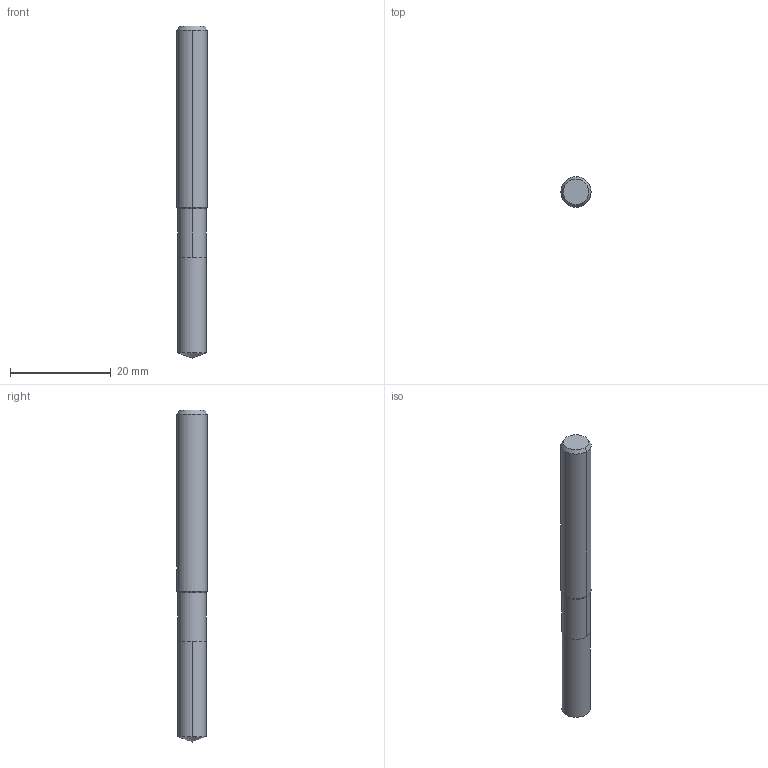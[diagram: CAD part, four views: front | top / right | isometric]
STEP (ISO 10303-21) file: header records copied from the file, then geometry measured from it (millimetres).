
FILE_DESCRIPTION(('no description'),'unknown implementation level');
FILE_NAME('solidVJX_OQ8OmvYQDqupamROsFD6TME_1.STP',' ',('CIMSOURCE GmbH'),('CADClick - KiM GmbH - www.kimweb.de'),'unknown preprocess','ACIS','unknown authorization');
FILE_SCHEMA(('automotive_design'));
Length unit declared in the file: millimetre
Products named in the file (2): NOCUT; CUT
Bounding box: 6 x 6 x 66 mm (x, y, z)
Volume: 1749.8 mm3; surface area: 1293 mm2
Topology: 2 solids, 2 shells, 28 faces, 67 edges, 41 vertices
Faces by surface type: cylinder 14, plane 8, cone 6
Entity records: 1799 total; most frequent: CARTESIAN_POINT 356, DIRECTION 139, STYLED_ITEM 136, PRESENTATION_STYLE_ASSIGNMENT 136, COLOUR_RGB 136, ORIENTED_EDGE 130, EDGE_CURVE 65, CURVE_STYLE 65
